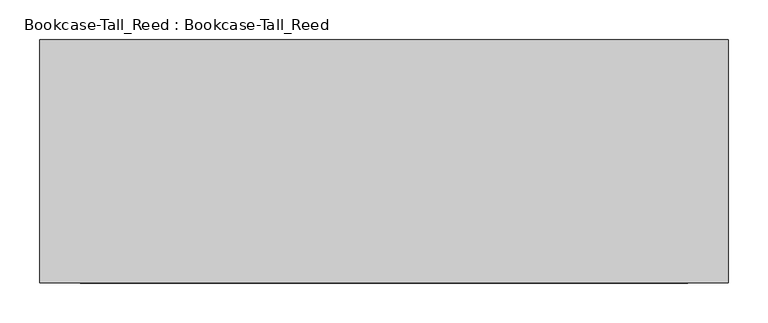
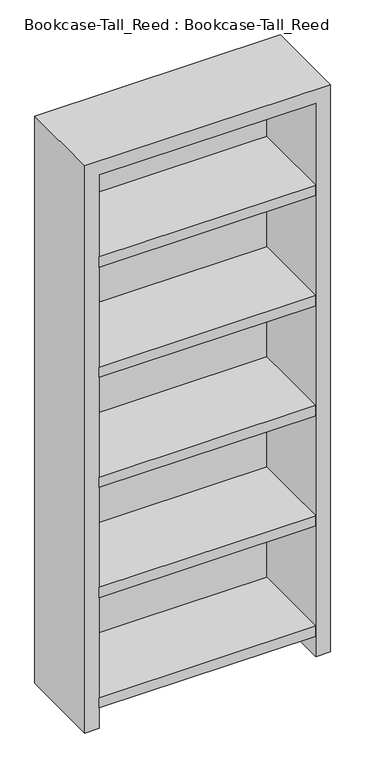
"""IFC4 building model written with IfcOpenShell, lengths in millimetres: furniture geometry, Bookcase-Tall_Reed : Bookcase-Tall_Reed."""

from ifc_helpers import new_model, si_unit, frame, origin, origin_with_axes, place, context, project, spatial, polyline, outline, extrude, faceted_brep, source, transform, mapped, element, save


def bookcase_tall_reed_bookcase_tall_reed_faf8525b(model_context):
    return source(origin(), model_context, "Body", "SolidModel", [
        extrude(outline(polyline([(381.0, 149.225), (381.0, -149.225), (-381.0, -149.225), (-381.0, 149.225), (381.0, 149.225)])), frame((0.0, 0.0, 1228.725), z_axis=(0.0, 0.0, 1.0), x_axis=(1.0, 0.0, 0.0)), (0.0, 0.0, 1.0), 38.1),
        extrude(outline(polyline([(381.0, 149.225), (381.0, -149.225), (-381.0, -149.225), (-381.0, 149.225), (381.0, 149.225)])), frame((0.0, 0.0, 819.15), z_axis=(0.0, 0.0, 1.0), x_axis=(1.0, 0.0, 0.0)), (0.0, 0.0, 1.0), 38.1),
        extrude(outline(polyline([(381.0, 149.225), (381.0, -149.225), (-381.0, -149.225), (-381.0, 149.225), (381.0, 149.225)])), frame((0.0, 0.0, 409.575), z_axis=(0.0, 0.0, 1.0), x_axis=(1.0, 0.0, 0.0)), (0.0, 0.0, 1.0), 38.1),
        extrude(outline(polyline([(381.0, 149.225), (381.0, -149.225), (-381.0, -149.225), (-381.0, 149.225), (381.0, 149.225)])), frame((0.0, 0.0, 1638.3), z_axis=(0.0, 0.0, 1.0), x_axis=(1.0, 0.0, 0.0)), (0.0, 0.0, 1.0), 38.1),
        extrude(outline(polyline([(381.0, 149.225), (381.0, -149.225), (-381.0, -149.225), (-381.0, 149.225), (381.0, 149.225)])), origin_with_axes(), (0.0, 0.0, 1.0), 38.1),
        faceted_brep([(-381.0, -149.225, 1981.2), (381.0, -149.225, 1981.2), (381.0, -149.225, -76.2), (431.8, -149.225, -76.2), (431.8, -149.225, 2032.0), (-431.8, -149.225, 2032.0), (-431.8, -149.225, -76.2), (-381.0, -149.225, -76.2), (-431.8, 155.575, -76.2), (-431.8, 155.575, 2032.0), (431.8, 155.575, 2032.0), (431.8, 155.575, -76.2), (-381.0, 149.225, 1981.2), (381.0, 149.225, 1981.2), (381.0, 149.225, -76.2), (-381.0, 149.225, -76.2)], [[[0, 1, 2, 3, 4, 5, 6, 7]], [[8, 9, 10, 11]], [[1, 0, 12, 13]], [[2, 1, 13, 14]], [[3, 2, 14, 15, 7, 6, 8, 11]], [[4, 3, 11, 10]], [[5, 4, 10, 9]], [[6, 5, 9, 8]], [[0, 7, 15, 12]], [[15, 14, 13, 12]]]),
    ])


if __name__ == "__main__":
    model = new_model("IFC4")
    model_context = context("Model", 3, world=origin())
    ifc_project = project(units=[si_unit("LENGTHUNIT", "METRE", prefix="MILLI")], contexts=[model_context])
    site = spatial("IfcSite", under=ifc_project)
    building = spatial("IfcBuilding", under=site)
    placement = place(None, origin())
    bookcase_tall_reed_bookcase_tall_reed_shape = bookcase_tall_reed_bookcase_tall_reed_faf8525b(model_context)
    element("IfcFurniture", 1, ObjectType="Bookcase-Tall_Reed : Bookcase-Tall_Reed", at=placement, inside=building, context=model_context, shape_type="MappedRepresentation", body=[
        mapped(bookcase_tall_reed_bookcase_tall_reed_shape, transform((0.0, 0.0, 0.0), x_axis=(1.0, 0.0, 0.0), y_axis=(0.0, 1.0, 0.0), z_axis=(0.0, 0.0, 1.0))),
    ])
    save(model, "model.ifc")
